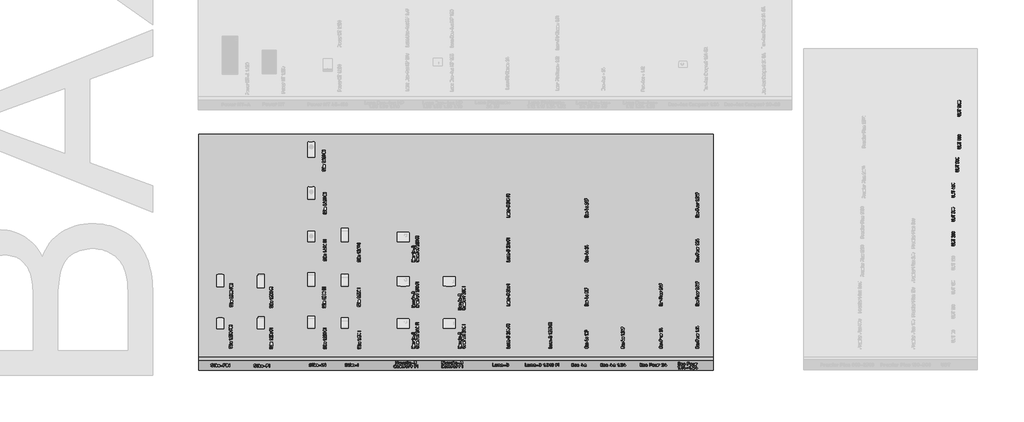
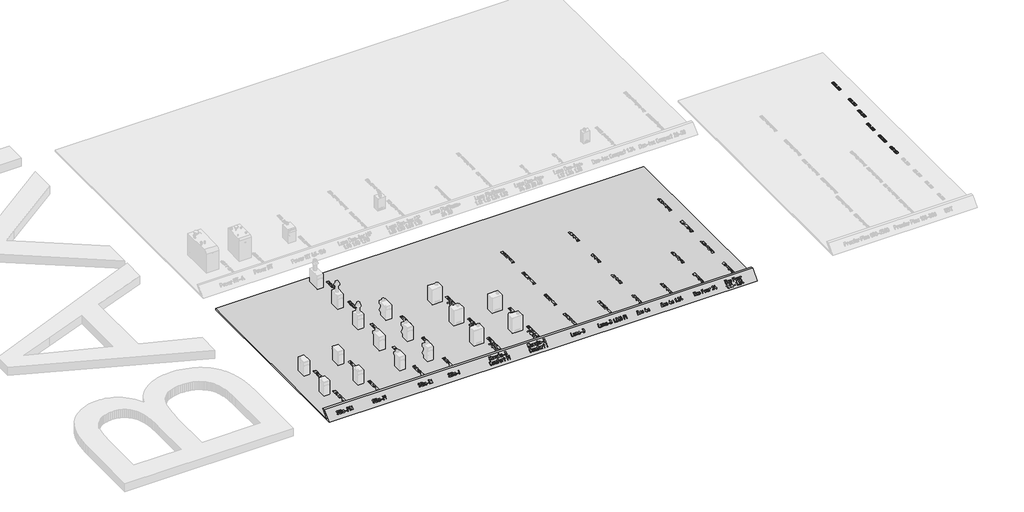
# One storey, part 31 of 37: 7 proxies.
"""IFC4 building model written with IfcOpenShell, lengths in millimetres."""

from ifc_helpers import new_model, si_unit, frame, origin, place, context, project, spatial, polyline, outline, extrude, transform, mapped, element, save
from components import generic_models_f48c6229

model = new_model("IFC4")

# Units and contexts
model_context = context("Model", 3, world=origin())
ifc_project = project(units=[si_unit("LENGTHUNIT", "METRE", prefix="MILLI")], contexts=[model_context])

# Site, building, storey
site = spatial("IfcSite", under=ifc_project)
building = spatial("IfcBuilding", under=site)
storey = spatial("IfcBuildingStorey", under=building, Name="01_Стартовый вид_Площадка", Elevation=0.0)

# Proxies
placement = place(None, origin())
element("IfcBuildingElementProxy", 1, Name="150 мм", ObjectType="150 мм", at=placement, inside=storey, context=model_context, shape_type="SweptSolid", body=[
    extrude(outline(polyline([(35202.1598658, -11955.5522205), (35300.2010973, -11955.5522205), (35317.5700563, -11958.8282519), (35332.2023305, -11968.656346), (35342.1502794, -11983.118826), (35345.4662624, -12000.2980149), (35342.1502794, -12017.4772038), (35332.2023305, -12031.9396837), (35317.5700563, -12041.7677778), (35300.2010973, -12045.0438092), (35202.1598658, -12045.0438092), (35196.4967262, -12043.1261323), (35194.609013, -12037.3731016), (35196.4867383, -12031.6200709), (35202.1199142, -12029.702394), (35300.0013393, -12029.702394), (35311.6821889, -12027.5699772), (35321.3954222, -12021.172727), (35327.942491, -12011.6892154), (35330.1248472, -12000.2980149), (35327.942491, -11988.9068143), (35321.3954222, -11979.4233028), (35311.6821889, -11973.0260525), (35300.0013393, -11970.8936357), (35202.1199142, -11970.8936357), (35196.4867383, -11968.9759588), (35194.609013, -11963.2229281), (35196.4967262, -11957.4698974), (35202.1598658, -11955.5522205)])), frame((0.0, 0.0, 11.1696829), z_axis=(0.0, 0.0, 1.0), x_axis=(1.0, 0.0, 0.0)), (0.0, 0.0, 1.0), 10.0),
    extrude(outline(polyline([(35262.8463493, -11857.2313278), (35278.6571958, -11840.8411831), (35300.8403229, -11835.3778015), (35317.9545904, -11838.6538329), (35332.3821127, -11848.481927), (35342.195225, -11862.9444069), (35345.4662624, -11880.1235958), (35345.4662624, -11917.3984406), (35343.5785492, -11923.0016527), (35337.9154096, -11924.8693901), (35202.1598658, -11924.8693901), (35196.4967262, -11923.0116406), (35194.609013, -11917.4383922), (35194.609013, -11880.2434506), (35197.3856493, -11865.8059404), (35205.7155584, -11853.8154659), (35218.0805792, -11845.7402483), (35232.962551, -11843.0485091), (35249.622369, -11846.5942138), (35262.8463493, -11857.2313278)]), holes=[polyline([(35271.316089, -11909.5279749), (35330.1248472, -11909.5279749), (35330.1248472, -11880.1235958), (35327.9924305, -11868.7323953), (35321.5951802, -11859.2488837), (35312.1116686, -11852.8516335), (35300.7204681, -11850.7192167), (35289.3292675, -11852.8516335), (35279.845756, -11859.2488837), (35273.4485057, -11868.7323953), (35271.316089, -11880.1235958), (35271.316089, -11909.5279749)]), polyline([(35209.9504282, -11909.5279749), (35255.9746738, -11909.5279749), (35255.9746738, -11880.3233538), (35254.2917125, -11871.8885718), (35249.2428288, -11864.8021564), (35241.8068369, -11859.9929823), (35232.962551, -11858.3899243), (35224.1182651, -11859.9929823), (35216.6822731, -11864.8021564), (35211.6333894, -11871.8885718), (35209.9504282, -11880.3233538), (35209.9504282, -11909.5279749)])]), frame((0.0, 0.0, 11.1696829), z_axis=(0.0, 0.0, 1.0), x_axis=(1.0, 0.0, 0.0)), (0.0, 0.0, 1.0), 10.0),
    extrude(outline(polyline([(35202.2797206, -11806.41289), (35196.5266899, -11804.5351647), (35194.609013, -11798.9019888), (35194.609013, -11723.5532673), (35196.5266899, -11717.9500551), (35202.2797206, -11716.0823177), (35208.0327513, -11717.9500551), (35209.9504282, -11723.5532673), (35209.9504282, -11753.5569204), (35337.9553612, -11753.5569204), (35343.5885371, -11755.4745973), (35345.4662624, -11761.227628), (35343.5885371, -11766.9806587), (35337.9553612, -11768.8983356), (35209.9504282, -11768.8983356), (35209.9504282, -11798.9019888), (35208.0327513, -11804.5351647), (35202.2797206, -11806.41289)])), frame((0.0, 0.0, 11.1696829), z_axis=(0.0, 0.0, 1.0), x_axis=(1.0, 0.0, 0.0)), (0.0, 0.0, 1.0), 10.0),
    extrude(outline(polyline([(35194.609013, -11596.2275115), (35197.3606796, -11581.7999892), (35205.6156793, -11569.6796719), (35217.7759482, -11561.4546358), (35232.2434221, -11558.7129571), (35243.0403426, -11560.4208881), (35253.9371421, -11565.5446811), (35330.1248472, -11612.8074263), (35330.1248472, -11566.2238583), (35332.0425241, -11560.5906824), (35337.7955548, -11558.7129571), (35343.5485855, -11560.5906824), (35345.4662624, -11566.2238583), (35345.4662624, -11626.2311646), (35343.5885371, -11631.8643405), (35337.9553612, -11633.7420658), (35333.6006366, -11632.4636145), (35244.9879832, -11577.4902101), (35232.5230833, -11573.7347595), (35223.8585796, -11575.3827631), (35216.5624183, -11580.3267738), (35211.6034257, -11587.5979654), (35209.9504282, -11596.2275115), (35214.6647172, -11608.4626896), (35228.8075844, -11619.7590051), (35232.4431801, -11626.2311646), (35230.5654548, -11631.8643405), (35224.932279, -11633.7420658), (35221.8560056, -11633.022937), (35201.4207611, -11616.852526), (35196.31195, -11607.0968442), (35194.609013, -11596.2275115)])), frame((0.0, 0.0, 11.1696829), z_axis=(0.0, 0.0, 1.0), x_axis=(1.0, 0.0, 0.0)), (0.0, 0.0, 1.0), 10.0),
    extrude(outline(polyline([(35270.0376377, -11454.3993241), (35295.1771833, -11456.0273519), (35316.6611573, -11460.9114352), (35338.2649861, -11473.3263956), (35343.6659433, -11481.6837713), (35345.4662624, -11491.4744108), (35343.6734343, -11501.2650503), (35338.2949498, -11509.6224261), (35316.7810121, -11522.0373864), (35295.2670744, -11526.9214698), (35270.0376377, -11528.5494975), (35244.808201, -11526.9214698), (35223.2942633, -11522.0373864), (35201.7803255, -11509.6224261), (35196.4018411, -11501.2650503), (35194.609013, -11491.4744108), (35196.409332, -11481.6837713), (35201.8102892, -11473.3263956), (35223.4141181, -11460.9114352), (35244.8980921, -11456.0273519), (35270.0376377, -11454.3993241)]), holes=[polyline([(35270.0376377, -11469.7407393), (35234.8802279, -11473.5760931), (35216.1828781, -11480.9671395), (35209.9504282, -11491.4744108), (35216.2128418, -11501.8917911), (35235.0000827, -11509.2528737), (35270.0376377, -11513.2080823), (35305.1950475, -11509.3727285), (35323.8923973, -11501.9816822), (35330.1248472, -11491.4744108), (35323.8923973, -11480.9671395), (35305.1950475, -11473.5760931), (35270.0376377, -11469.7407393)])]), frame((0.0, 0.0, 11.1696829), z_axis=(0.0, 0.0, 1.0), x_axis=(1.0, 0.0, 0.0)), (0.0, 0.0, 1.0), 10.0),
    extrude(outline(polyline([(35270.0376377, -11349.5663202), (35295.1771833, -11351.194348), (35316.6611573, -11356.0784314), (35338.2649861, -11368.4933917), (35343.6659433, -11376.8507675), (35345.4662624, -11386.641407), (35343.6734343, -11396.4320464), (35338.2949498, -11404.7894222), (35316.7810121, -11417.2043826), (35295.2670744, -11422.0884659), (35270.0376377, -11423.7164937), (35244.808201, -11422.0884659), (35223.2942633, -11417.2043826), (35201.7803255, -11404.7894222), (35196.4018411, -11396.4320464), (35194.609013, -11386.641407), (35196.409332, -11376.8507675), (35201.8102892, -11368.4933917), (35223.4141181, -11356.0784314), (35244.8980921, -11351.194348), (35270.0376377, -11349.5663202)]), holes=[polyline([(35270.0376377, -11364.9077354), (35234.8802279, -11368.7430892), (35216.1828781, -11376.1341356), (35209.9504282, -11386.641407), (35216.2128418, -11397.0587872), (35235.0000827, -11404.4198699), (35270.0376377, -11408.3750785), (35305.1950475, -11404.5397247), (35323.8923973, -11397.1486783), (35330.1248472, -11386.641407), (35323.8923973, -11376.1341356), (35305.1950475, -11368.7430892), (35270.0376377, -11364.9077354)])]), frame((0.0, 0.0, 11.1696829), z_axis=(0.0, 0.0, 1.0), x_axis=(1.0, 0.0, 0.0)), (0.0, 0.0, 1.0), 10.0),
])
element("IfcBuildingElementProxy", 2, Name="150 мм", ObjectType="150 мм", at=placement, inside=storey, context=model_context, shape_type="SweptSolid", body=[
    extrude(outline(polyline([(35202.1598658, -10755.5522205), (35300.2010973, -10755.5522205), (35317.5700563, -10758.8282519), (35332.2023305, -10768.656346), (35342.1502794, -10783.118826), (35345.4662624, -10800.2980149), (35342.1502794, -10817.4772038), (35332.2023305, -10831.9396837), (35317.5700563, -10841.7677778), (35300.2010973, -10845.0438092), (35202.1598658, -10845.0438092), (35196.4967262, -10843.1261323), (35194.609013, -10837.3731016), (35196.4867383, -10831.6200709), (35202.1199142, -10829.702394), (35300.0013393, -10829.702394), (35311.6821889, -10827.5699772), (35321.3954222, -10821.172727), (35327.942491, -10811.6892154), (35330.1248472, -10800.2980149), (35327.942491, -10788.9068143), (35321.3954222, -10779.4233028), (35311.6821889, -10773.0260525), (35300.0013393, -10770.8936357), (35202.1199142, -10770.8936357), (35196.4867383, -10768.9759588), (35194.609013, -10763.2229281), (35196.4967262, -10757.4698974), (35202.1598658, -10755.5522205)])), frame((0.0, 0.0, 11.1696829), z_axis=(0.0, 0.0, 1.0), x_axis=(1.0, 0.0, 0.0)), (0.0, 0.0, 1.0), 10.0),
    extrude(outline(polyline([(35262.8463493, -10657.2313278), (35278.6571958, -10640.8411831), (35300.8403229, -10635.3778015), (35317.9545904, -10638.6538329), (35332.3821127, -10648.481927), (35342.195225, -10662.9444069), (35345.4662624, -10680.1235958), (35345.4662624, -10717.3984406), (35343.5785492, -10723.0016527), (35337.9154096, -10724.8693901), (35202.1598658, -10724.8693901), (35196.4967262, -10723.0116406), (35194.609013, -10717.4383922), (35194.609013, -10680.2434506), (35197.3856493, -10665.8059404), (35205.7155584, -10653.8154659), (35218.0805792, -10645.7402483), (35232.962551, -10643.0485091), (35249.622369, -10646.5942138), (35262.8463493, -10657.2313278)]), holes=[polyline([(35271.316089, -10709.5279749), (35330.1248472, -10709.5279749), (35330.1248472, -10680.1235958), (35327.9924305, -10668.7323953), (35321.5951802, -10659.2488837), (35312.1116686, -10652.8516335), (35300.7204681, -10650.7192167), (35289.3292675, -10652.8516335), (35279.845756, -10659.2488837), (35273.4485057, -10668.7323953), (35271.316089, -10680.1235958), (35271.316089, -10709.5279749)]), polyline([(35209.9504282, -10709.5279749), (35255.9746738, -10709.5279749), (35255.9746738, -10680.3233538), (35254.2917125, -10671.8885718), (35249.2428288, -10664.8021564), (35241.8068369, -10659.9929823), (35232.962551, -10658.3899243), (35224.1182651, -10659.9929823), (35216.6822731, -10664.8021564), (35211.6333894, -10671.8885718), (35209.9504282, -10680.3233538), (35209.9504282, -10709.5279749)])]), frame((0.0, 0.0, 11.1696829), z_axis=(0.0, 0.0, 1.0), x_axis=(1.0, 0.0, 0.0)), (0.0, 0.0, 1.0), 10.0),
    extrude(outline(polyline([(35202.2797206, -10606.41289), (35196.5266899, -10604.5351647), (35194.609013, -10598.9019888), (35194.609013, -10523.5532673), (35196.5266899, -10517.9500551), (35202.2797206, -10516.0823177), (35208.0327513, -10517.9500551), (35209.9504282, -10523.5532673), (35209.9504282, -10553.5569204), (35337.9553612, -10553.5569204), (35343.5885371, -10555.4745973), (35345.4662624, -10561.227628), (35343.5885371, -10566.9806587), (35337.9553612, -10568.8983356), (35209.9504282, -10568.8983356), (35209.9504282, -10598.9019888), (35208.0327513, -10604.5351647), (35202.2797206, -10606.41289)])), frame((0.0, 0.0, 11.1696829), z_axis=(0.0, 0.0, 1.0), x_axis=(1.0, 0.0, 0.0)), (0.0, 0.0, 1.0), 10.0),
    extrude(outline(polyline([(35271.316089, -10397.0664951), (35271.316089, -10412.0483459), (35269.3984121, -10417.6815218), (35263.6453814, -10419.5592471), (35257.8923507, -10417.6815218), (35255.9746738, -10412.0483459), (35255.9746738, -10397.0664951), (35254.3017004, -10388.3620398), (35249.2827804, -10381.1058301), (35241.8567764, -10376.2067649), (35232.962551, -10374.5737431), (35224.1182651, -10376.2217467), (35216.6822731, -10381.1657575), (35211.6333894, -10388.4369491), (35209.9504282, -10397.0664951), (35209.9504282, -10427.0701483), (35208.0327513, -10432.7033242), (35202.2797206, -10434.5810495), (35196.5266899, -10432.7033242), (35194.609013, -10427.0701483), (35194.609013, -10397.0664951), (35197.4256009, -10382.5990212), (35205.8753648, -10370.3588491), (35218.2803372, -10362.0139582), (35232.962551, -10359.2323279), (35250.1617157, -10362.9877785), (35263.6453814, -10374.2541303), (35276.7195431, -10362.9877785), (35293.4093249, -10359.2323279), (35308.2713209, -10359.2323279), (35322.5839823, -10362.0289401), (35334.5994267, -10370.4187765), (35342.7495535, -10382.6739305), (35345.4662624, -10397.0664951), (35345.4662624, -10427.0701483), (35343.5485855, -10432.7033242), (35337.7955548, -10434.5810495), (35332.0425241, -10432.7033242), (35330.1248472, -10427.0701483), (35330.1248472, -10397.0664951), (35328.5217892, -10388.3620398), (35323.7126151, -10381.1058301), (35316.596236, -10376.2067649), (35308.0715629, -10374.5737431), (35293.3693733, -10374.5737431), (35284.8946397, -10376.2217467), (35277.7682727, -10381.1657575), (35272.9291349, -10388.4369491), (35271.316089, -10397.0664951)])), frame((0.0, 0.0, 11.1696829), z_axis=(0.0, 0.0, 1.0), x_axis=(1.0, 0.0, 0.0)), (0.0, 0.0, 1.0), 10.0),
    extrude(outline(polyline([(35270.0376377, -10254.3993241), (35295.1771833, -10256.0273519), (35316.6611573, -10260.9114352), (35338.2649861, -10273.3263956), (35343.6659433, -10281.6837713), (35345.4662624, -10291.4744108), (35343.6734343, -10301.2650503), (35338.2949498, -10309.6224261), (35316.7810121, -10322.0373864), (35295.2670744, -10326.9214698), (35270.0376377, -10328.5494975), (35244.808201, -10326.9214698), (35223.2942633, -10322.0373864), (35201.7803255, -10309.6224261), (35196.4018411, -10301.2650503), (35194.609013, -10291.4744108), (35196.409332, -10281.6837713), (35201.8102892, -10273.3263956), (35223.4141181, -10260.9114352), (35244.8980921, -10256.0273519), (35270.0376377, -10254.3993241)]), holes=[polyline([(35270.0376377, -10269.7407393), (35234.8802279, -10273.5760931), (35216.1828781, -10280.9671395), (35209.9504282, -10291.4744108), (35216.2128418, -10301.8917911), (35235.0000827, -10309.2528737), (35270.0376377, -10313.2080823), (35305.1950475, -10309.3727285), (35323.8923973, -10301.9816822), (35330.1248472, -10291.4744108), (35323.8923973, -10280.9671395), (35305.1950475, -10273.5760931), (35270.0376377, -10269.7407393)])]), frame((0.0, 0.0, 11.1696829), z_axis=(0.0, 0.0, 1.0), x_axis=(1.0, 0.0, 0.0)), (0.0, 0.0, 1.0), 10.0),
    extrude(outline(polyline([(35270.0376377, -10149.5663202), (35295.1771833, -10151.194348), (35316.6611573, -10156.0784314), (35338.2649861, -10168.4933917), (35343.6659433, -10176.8507675), (35345.4662624, -10186.641407), (35343.6734343, -10196.4320464), (35338.2949498, -10204.7894222), (35316.7810121, -10217.2043826), (35295.2670744, -10222.0884659), (35270.0376377, -10223.7164937), (35244.808201, -10222.0884659), (35223.2942633, -10217.2043826), (35201.7803255, -10204.7894222), (35196.4018411, -10196.4320464), (35194.609013, -10186.641407), (35196.409332, -10176.8507675), (35201.8102892, -10168.4933917), (35223.4141181, -10156.0784314), (35244.8980921, -10151.194348), (35270.0376377, -10149.5663202)]), holes=[polyline([(35270.0376377, -10164.9077354), (35234.8802279, -10168.7430892), (35216.1828781, -10176.1341356), (35209.9504282, -10186.641407), (35216.2128418, -10197.0587872), (35235.0000827, -10204.4198699), (35270.0376377, -10208.3750785), (35305.1950475, -10204.5397247), (35323.8923973, -10197.1486783), (35330.1248472, -10186.641407), (35323.8923973, -10176.1341356), (35305.1950475, -10168.7430892), (35270.0376377, -10164.9077354)])]), frame((0.0, 0.0, 11.1696829), z_axis=(0.0, 0.0, 1.0), x_axis=(1.0, 0.0, 0.0)), (0.0, 0.0, 1.0), 10.0),
])
element("IfcBuildingElementProxy", 3, Name="150 мм", ObjectType="150 мм", at=placement, inside=storey, context=model_context, shape_type="SweptSolid", body=[
    extrude(outline(polyline([(35202.1598658, -9555.5522205), (35300.2010973, -9555.5522205), (35317.5700563, -9558.8282519), (35332.2023305, -9568.656346), (35342.1502794, -9583.118826), (35345.4662624, -9600.2980149), (35342.1502794, -9617.4772038), (35332.2023305, -9631.9396837), (35317.5700563, -9641.7677778), (35300.2010973, -9645.0438092), (35202.1598658, -9645.0438092), (35196.4967262, -9643.1261323), (35194.609013, -9637.3731016), (35196.4867383, -9631.6200709), (35202.1199142, -9629.702394), (35300.0013393, -9629.702394), (35311.6821889, -9627.5699772), (35321.3954222, -9621.172727), (35327.942491, -9611.6892154), (35330.1248472, -9600.2980149), (35327.942491, -9588.9068143), (35321.3954222, -9579.4233028), (35311.6821889, -9573.0260525), (35300.0013393, -9570.8936357), (35202.1199142, -9570.8936357), (35196.4867383, -9568.9759588), (35194.609013, -9563.2229281), (35196.4967262, -9557.4698974), (35202.1598658, -9555.5522205)])), frame((0.0, 0.0, 11.1696829), z_axis=(0.0, 0.0, 1.0), x_axis=(1.0, 0.0, 0.0)), (0.0, 0.0, 1.0), 10.0),
    extrude(outline(polyline([(35262.8463493, -9457.2313278), (35278.6571958, -9440.8411831), (35300.8403229, -9435.3778015), (35317.9545904, -9438.6538329), (35332.3821127, -9448.481927), (35342.195225, -9462.9444069), (35345.4662624, -9480.1235958), (35345.4662624, -9517.3984406), (35343.5785492, -9523.0016527), (35337.9154096, -9524.8693901), (35202.1598658, -9524.8693901), (35196.4967262, -9523.0116406), (35194.609013, -9517.4383922), (35194.609013, -9480.2434506), (35197.3856493, -9465.8059404), (35205.7155584, -9453.8154659), (35218.0805792, -9445.7402483), (35232.962551, -9443.0485091), (35249.622369, -9446.5942138), (35262.8463493, -9457.2313278)]), holes=[polyline([(35271.316089, -9509.5279749), (35330.1248472, -9509.5279749), (35330.1248472, -9480.1235958), (35327.9924305, -9468.7323953), (35321.5951802, -9459.2488837), (35312.1116686, -9452.8516335), (35300.7204681, -9450.7192167), (35289.3292675, -9452.8516335), (35279.845756, -9459.2488837), (35273.4485057, -9468.7323953), (35271.316089, -9480.1235958), (35271.316089, -9509.5279749)]), polyline([(35209.9504282, -9509.5279749), (35255.9746738, -9509.5279749), (35255.9746738, -9480.3233538), (35254.2917125, -9471.8885718), (35249.2428288, -9464.8021564), (35241.8068369, -9459.9929823), (35232.962551, -9458.3899243), (35224.1182651, -9459.9929823), (35216.6822731, -9464.8021564), (35211.6333894, -9471.8885718), (35209.9504282, -9480.3233538), (35209.9504282, -9509.5279749)])]), frame((0.0, 0.0, 11.1696829), z_axis=(0.0, 0.0, 1.0), x_axis=(1.0, 0.0, 0.0)), (0.0, 0.0, 1.0), 10.0),
    extrude(outline(polyline([(35202.2797206, -9406.41289), (35196.5266899, -9404.5351647), (35194.609013, -9398.9019888), (35194.609013, -9323.5532673), (35196.5266899, -9317.9500551), (35202.2797206, -9316.0823177), (35208.0327513, -9317.9500551), (35209.9504282, -9323.5532673), (35209.9504282, -9353.5569204), (35337.9553612, -9353.5569204), (35343.5885371, -9355.4745973), (35345.4662624, -9361.227628), (35343.5885371, -9366.9806587), (35337.9553612, -9368.8983356), (35209.9504282, -9368.8983356), (35209.9504282, -9398.9019888), (35208.0327513, -9404.5351647), (35202.2797206, -9406.41289)])), frame((0.0, 0.0, 11.1696829), z_axis=(0.0, 0.0, 1.0), x_axis=(1.0, 0.0, 0.0)), (0.0, 0.0, 1.0), 10.0),
    extrude(outline(polyline([(35307.2725308, -9234.7808075), (35305.2349991, -9234.5410979), (35200.0823825, -9204.5374447), (35195.9773553, -9201.9206148), (35194.609013, -9197.2662531), (35196.4767504, -9191.6330772), (35202.0799626, -9189.7553519), (35204.2373491, -9190.1149163), (35299.4420168, -9217.361909), (35299.4420168, -9182.2444507), (35276.9093133, -9182.2444507), (35271.3061011, -9180.3267738), (35269.4383637, -9174.5737431), (35271.3061011, -9168.8207124), (35276.9093133, -9166.9030355), (35299.4420168, -9166.9030355), (35299.4420168, -9151.8812332), (35301.3596937, -9146.278021), (35307.1127244, -9144.4102836), (35312.8657551, -9146.278021), (35314.783432, -9151.8812332), (35314.783432, -9166.9030355), (35337.7955548, -9166.9030355), (35343.5485855, -9168.8207124), (35345.4662624, -9174.5737431), (35343.5485855, -9180.3267738), (35337.7955548, -9182.2444507), (35314.783432, -9182.2444507), (35314.783432, -9227.2699063), (35312.9057067, -9232.9030822), (35307.2725308, -9234.7808075)])), frame((0.0, 0.0, 11.1696829), z_axis=(0.0, 0.0, 1.0), x_axis=(1.0, 0.0, 0.0)), (0.0, 0.0, 1.0), 10.0),
    extrude(outline(polyline([(35270.0376377, -9039.0579089), (35295.1771833, -9040.6859367), (35316.6611573, -9045.57002), (35338.2649861, -9057.9849804), (35343.6659433, -9066.3423561), (35345.4662624, -9076.1329956), (35343.6734343, -9085.9236351), (35338.2949498, -9094.2810109), (35316.7810121, -9106.6959712), (35295.2670744, -9111.5800546), (35270.0376377, -9113.2080823), (35244.808201, -9111.5800546), (35223.2942633, -9106.6959712), (35201.7803255, -9094.2810109), (35196.4018411, -9085.9236351), (35194.609013, -9076.1329956), (35196.409332, -9066.3423561), (35201.8102892, -9057.9849804), (35223.4141181, -9045.57002), (35244.8980921, -9040.6859367), (35270.0376377, -9039.0579089)]), holes=[polyline([(35270.0376377, -9054.3993241), (35234.8802279, -9058.2346779), (35216.1828781, -9065.6257243), (35209.9504282, -9076.1329956), (35216.2128418, -9086.5503759), (35235.0000827, -9093.9114585), (35270.0376377, -9097.8666671), (35305.1950475, -9094.0313133), (35323.8923973, -9086.640267), (35330.1248472, -9076.1329956), (35323.8923973, -9065.6257243), (35305.1950475, -9058.2346779), (35270.0376377, -9054.3993241)])]), frame((0.0, 0.0, 11.1696829), z_axis=(0.0, 0.0, 1.0), x_axis=(1.0, 0.0, 0.0)), (0.0, 0.0, 1.0), 10.0),
    extrude(outline(polyline([(35270.0376377, -8934.224905), (35295.1771833, -8935.8529328), (35316.6611573, -8940.7370162), (35338.2649861, -8953.1519765), (35343.6659433, -8961.5093523), (35345.4662624, -8971.2999918), (35343.6734343, -8981.0906313), (35338.2949498, -8989.448007), (35316.7810121, -9001.8629674), (35295.2670744, -9006.7470507), (35270.0376377, -9008.3750785), (35244.808201, -9006.7470507), (35223.2942633, -9001.8629674), (35201.7803255, -8989.448007), (35196.4018411, -8981.0906313), (35194.609013, -8971.2999918), (35196.409332, -8961.5093523), (35201.8102892, -8953.1519765), (35223.4141181, -8940.7370162), (35244.8980921, -8935.8529328), (35270.0376377, -8934.224905)]), holes=[polyline([(35270.0376377, -8949.5663202), (35234.8802279, -8953.401674), (35216.1828781, -8960.7927204), (35209.9504282, -8971.2999918), (35216.2128418, -8981.717372), (35235.0000827, -8989.0784547), (35270.0376377, -8993.0336633), (35305.1950475, -8989.1983095), (35323.8923973, -8981.8072631), (35330.1248472, -8971.2999918), (35323.8923973, -8960.7927204), (35305.1950475, -8953.401674), (35270.0376377, -8949.5663202)])]), frame((0.0, 0.0, 11.1696829), z_axis=(0.0, 0.0, 1.0), x_axis=(1.0, 0.0, 0.0)), (0.0, 0.0, 1.0), 10.0),
])
element("IfcBuildingElementProxy", 4, Name="150 мм", ObjectType="150 мм", at=placement, inside=storey, context=model_context, shape_type="SweptSolid", body=[
    extrude(outline(polyline([(35402.1598658, -8275.5522205), (35500.2010973, -8275.5522205), (35517.5700563, -8278.8282519), (35532.2023305, -8288.656346), (35542.1502794, -8303.118826), (35545.4662624, -8320.2980149), (35542.1502794, -8337.4772038), (35532.2023305, -8351.9396837), (35517.5700563, -8361.7677778), (35500.2010973, -8365.0438092), (35402.1598658, -8365.0438092), (35396.4967262, -8363.1261323), (35394.609013, -8357.3731016), (35396.4867383, -8351.6200709), (35402.1199142, -8349.702394), (35500.0013393, -8349.702394), (35511.6821889, -8347.5699772), (35521.3954222, -8341.172727), (35527.942491, -8331.6892154), (35530.1248472, -8320.2980149), (35527.942491, -8308.9068143), (35521.3954222, -8299.4233028), (35511.6821889, -8293.0260525), (35500.0013393, -8290.8936357), (35402.1199142, -8290.8936357), (35396.4867383, -8288.9759588), (35394.609013, -8283.2229281), (35396.4967262, -8277.4698974), (35402.1598658, -8275.5522205)])), frame((0.0, 0.0, 11.1696829), z_axis=(0.0, 0.0, 1.0), x_axis=(1.0, 0.0, 0.0)), (0.0, 0.0, 1.0), 10.0),
    extrude(outline(polyline([(35462.8463493, -8177.2313278), (35478.6571958, -8160.8411831), (35500.8403229, -8155.3778015), (35517.9545904, -8158.6538329), (35532.3821127, -8168.481927), (35542.195225, -8182.9444069), (35545.4662624, -8200.1235958), (35545.4662624, -8237.3984406), (35543.5785492, -8243.0016527), (35537.9154096, -8244.8693901), (35402.1598658, -8244.8693901), (35396.4967262, -8243.0116406), (35394.609013, -8237.4383922), (35394.609013, -8200.2434506), (35397.3856493, -8185.8059404), (35405.7155584, -8173.8154659), (35418.0805792, -8165.7402483), (35432.962551, -8163.0485091), (35449.622369, -8166.5942138), (35462.8463493, -8177.2313278)]), holes=[polyline([(35471.316089, -8229.5279749), (35530.1248472, -8229.5279749), (35530.1248472, -8200.1235958), (35527.9924305, -8188.7323953), (35521.5951802, -8179.2488837), (35512.1116686, -8172.8516335), (35500.7204681, -8170.7192167), (35489.3292675, -8172.8516335), (35479.845756, -8179.2488837), (35473.4485057, -8188.7323953), (35471.316089, -8200.1235958), (35471.316089, -8229.5279749)]), polyline([(35409.9504282, -8229.5279749), (35455.9746738, -8229.5279749), (35455.9746738, -8200.3233538), (35454.2917125, -8191.8885718), (35449.2428288, -8184.8021564), (35441.8068369, -8179.9929823), (35432.962551, -8178.3899243), (35424.1182651, -8179.9929823), (35416.6822731, -8184.8021564), (35411.6333894, -8191.8885718), (35409.9504282, -8200.3233538), (35409.9504282, -8229.5279749)])]), frame((0.0, 0.0, 11.1696829), z_axis=(0.0, 0.0, 1.0), x_axis=(1.0, 0.0, 0.0)), (0.0, 0.0, 1.0), 10.0),
    extrude(outline(polyline([(35402.2797206, -8126.41289), (35396.5266899, -8124.5351647), (35394.609013, -8118.9019888), (35394.609013, -8043.5532673), (35396.5266899, -8037.9500551), (35402.2797206, -8036.0823177), (35408.0327513, -8037.9500551), (35409.9504282, -8043.5532673), (35409.9504282, -8073.5569204), (35537.9553612, -8073.5569204), (35543.5885371, -8075.4745973), (35545.4662624, -8081.227628), (35543.5885371, -8086.9806587), (35537.9553612, -8088.8983356), (35409.9504282, -8088.8983356), (35409.9504282, -8118.9019888), (35408.0327513, -8124.5351647), (35402.2797206, -8126.41289)])), frame((0.0, 0.0, 11.1696829), z_axis=(0.0, 0.0, 1.0), x_axis=(1.0, 0.0, 0.0)), (0.0, 0.0, 1.0), 10.0),
    extrude(outline(polyline([(35463.6453814, -7953.3825014), (35402.2797206, -7953.3825014), (35396.5266899, -7951.5447277), (35394.609013, -7946.0314066), (35394.609013, -7894.5737431), (35396.5266899, -7888.9405672), (35402.2797206, -7887.0628419), (35408.0327513, -7888.9405672), (35409.9504282, -7894.5737431), (35409.9504282, -7938.0410862), (35455.9746738, -7938.0410862), (35455.9746738, -7915.9878018), (35458.7163525, -7901.8549226), (35466.9413885, -7889.9793089), (35479.0017784, -7881.9190732), (35493.2495185, -7879.2323279), (35508.1914177, -7879.2323279), (35522.514067, -7881.9590248), (35534.5594751, -7890.1391153), (35542.7395656, -7902.1345838), (35545.4662624, -7916.3074147), (35545.4662624, -7945.9515034), (35543.5485855, -7951.5247519), (35537.7955548, -7953.3825014), (35532.0425241, -7951.5447277), (35530.1248472, -7946.0314066), (35530.1248472, -7916.6270275), (35528.5217892, -7908.1023544), (35523.7126151, -7900.9859753), (35516.596236, -7896.1768012), (35508.0715629, -7894.5737431), (35493.3693733, -7894.5737431), (35484.8946397, -7896.1867891), (35477.7682727, -7901.0259269), (35472.9291349, -7908.1522939), (35471.316089, -7916.6270275), (35471.316089, -7946.0314066), (35469.3984121, -7951.5447277), (35463.6453814, -7953.3825014)])), frame((0.0, 0.0, 11.1696829), z_axis=(0.0, 0.0, 1.0), x_axis=(1.0, 0.0, 0.0)), (0.0, 0.0, 1.0), 10.0),
    extrude(outline(polyline([(35470.0376377, -7774.3993241), (35495.1771833, -7776.0273519), (35516.6611573, -7780.9114352), (35538.2649861, -7793.3263956), (35543.6659433, -7801.6837713), (35545.4662624, -7811.4744108), (35543.6734343, -7821.2650503), (35538.2949498, -7829.6224261), (35516.7810121, -7842.0373864), (35495.2670744, -7846.9214698), (35470.0376377, -7848.5494975), (35444.808201, -7846.9214698), (35423.2942633, -7842.0373864), (35401.7803255, -7829.6224261), (35396.4018411, -7821.2650503), (35394.609013, -7811.4744108), (35396.409332, -7801.6837713), (35401.8102892, -7793.3263956), (35423.4141181, -7780.9114352), (35444.8980921, -7776.0273519), (35470.0376377, -7774.3993241)]), holes=[polyline([(35470.0376377, -7789.7407393), (35434.8802279, -7793.5760931), (35416.1828781, -7800.9671395), (35409.9504282, -7811.4744108), (35416.2128418, -7821.8917911), (35435.0000827, -7829.2528737), (35470.0376377, -7833.2080823), (35505.1950475, -7829.3727285), (35523.8923973, -7821.9816822), (35530.1248472, -7811.4744108), (35523.8923973, -7800.9671395), (35505.1950475, -7793.5760931), (35470.0376377, -7789.7407393)])]), frame((0.0, 0.0, 11.1696829), z_axis=(0.0, 0.0, 1.0), x_axis=(1.0, 0.0, 0.0)), (0.0, 0.0, 1.0), 10.0),
    extrude(outline(polyline([(35470.0376377, -7669.5663202), (35495.1771833, -7671.194348), (35516.6611573, -7676.0784314), (35538.2649861, -7688.4933917), (35543.6659433, -7696.8507675), (35545.4662624, -7706.641407), (35543.6734343, -7716.4320464), (35538.2949498, -7724.7894222), (35516.7810121, -7737.2043826), (35495.2670744, -7742.0884659), (35470.0376377, -7743.7164937), (35444.808201, -7742.0884659), (35423.2942633, -7737.2043826), (35401.7803255, -7724.7894222), (35396.4018411, -7716.4320464), (35394.609013, -7706.641407), (35396.409332, -7696.8507675), (35401.8102892, -7688.4933917), (35423.4141181, -7676.0784314), (35444.8980921, -7671.194348), (35470.0376377, -7669.5663202)]), holes=[polyline([(35470.0376377, -7684.9077354), (35434.8802279, -7688.7430892), (35416.1828781, -7696.1341356), (35409.9504282, -7706.641407), (35416.2128418, -7717.0587872), (35435.0000827, -7724.4198699), (35470.0376377, -7728.3750785), (35505.1950475, -7724.5397247), (35523.8923973, -7717.1486783), (35530.1248472, -7706.641407), (35523.8923973, -7696.1341356), (35505.1950475, -7688.7430892), (35470.0376377, -7684.9077354)])]), frame((0.0, 0.0, 11.1696829), z_axis=(0.0, 0.0, 1.0), x_axis=(1.0, 0.0, 0.0)), (0.0, 0.0, 1.0), 10.0),
])
element("IfcBuildingElementProxy", 5, Name="150 мм", ObjectType="150 мм", at=placement, inside=storey, context=model_context, shape_type="SweptSolid", body=[
    extrude(outline(polyline([(35503.3861528, -7135.4704681), (35601.4273843, -7135.4704681), (35618.7963433, -7138.7464994), (35633.4286175, -7148.5745936), (35643.3765664, -7163.0370735), (35646.6925494, -7180.2162624), (35643.3765664, -7197.3954513), (35633.4286175, -7211.8579312), (35618.7963433, -7221.6860254), (35601.4273843, -7224.9620567), (35503.3861528, -7224.9620567), (35497.7230132, -7223.0443798), (35495.8353, -7217.2913491), (35497.7130253, -7211.5383184), (35503.3462012, -7209.6206415), (35601.2276263, -7209.6206415), (35612.9084759, -7207.4882248), (35622.6217092, -7201.0909745), (35629.168778, -7191.6074629), (35631.3511342, -7180.2162624), (35629.168778, -7168.8250619), (35622.6217092, -7159.3415503), (35612.9084759, -7152.9443), (35601.2276263, -7150.8118833), (35503.3462012, -7150.8118833), (35497.7130253, -7148.8942064), (35495.8353, -7143.1411757), (35497.7230132, -7137.388145), (35503.3861528, -7135.4704681)])), frame((0.0, 0.0, 11.1696829), z_axis=(0.0, 0.0, 1.0), x_axis=(1.0, 0.0, 0.0)), (0.0, 0.0, 1.0), 10.0),
    extrude(outline(polyline([(35564.0726363, -7037.1495754), (35579.8834828, -7020.7594306), (35602.0666099, -7015.296049), (35619.1808774, -7018.5720804), (35633.6083997, -7028.4001745), (35643.421512, -7042.8626545), (35646.6925494, -7060.0418434), (35646.6925494, -7097.3166881), (35644.8048362, -7102.9199003), (35639.1416966, -7104.7876377), (35503.3861528, -7104.7876377), (35497.7230132, -7102.9298882), (35495.8353, -7097.3566397), (35495.8353, -7060.1616982), (35498.6119363, -7045.724188), (35506.9418454, -7033.7337134), (35519.3068662, -7025.6584958), (35534.188838, -7022.9667566), (35550.848656, -7026.5124613), (35564.0726363, -7037.1495754)]), holes=[polyline([(35572.542376, -7089.4462225), (35631.3511342, -7089.4462225), (35631.3511342, -7060.0418434), (35629.2187175, -7048.6506428), (35622.8214672, -7039.1671313), (35613.3379556, -7032.769881), (35601.9467551, -7030.6374642), (35590.5555545, -7032.769881), (35581.072043, -7039.1671313), (35574.6747927, -7048.6506428), (35572.542376, -7060.0418434), (35572.542376, -7089.4462225)]), polyline([(35511.1767152, -7089.4462225), (35557.2009608, -7089.4462225), (35557.2009608, -7060.2416014), (35555.5179995, -7051.8068194), (35550.4691158, -7044.720404), (35543.0331239, -7039.9112299), (35534.188838, -7038.3081718), (35525.3445521, -7039.9112299), (35517.9085601, -7044.720404), (35512.8596764, -7051.8068194), (35511.1767152, -7060.2416014), (35511.1767152, -7089.4462225)])]), frame((0.0, 0.0, 11.1696829), z_axis=(0.0, 0.0, 1.0), x_axis=(1.0, 0.0, 0.0)), (0.0, 0.0, 1.0), 10.0),
    extrude(outline(polyline([(35503.5060076, -6986.3311375), (35497.7529769, -6984.4534122), (35495.8353, -6978.8202363), (35495.8353, -6903.4715148), (35497.7529769, -6897.8683026), (35503.5060076, -6896.0005652), (35509.2590383, -6897.8683026), (35511.1767152, -6903.4715148), (35511.1767152, -6933.475168), (35639.1816482, -6933.475168), (35644.8148241, -6935.3928449), (35646.6925494, -6941.1458756), (35644.8148241, -6946.8989063), (35639.1816482, -6948.8165832), (35511.1767152, -6948.8165832), (35511.1767152, -6978.8202363), (35509.2590383, -6984.4534122), (35503.5060076, -6986.3311375)])), frame((0.0, 0.0, 11.1696829), z_axis=(0.0, 0.0, 1.0), x_axis=(1.0, 0.0, 0.0)), (0.0, 0.0, 1.0), 10.0),
    extrude(outline(polyline([(35646.6925494, -6776.2256622), (35643.9358889, -6790.4734023), (35635.6659072, -6802.453889), (35623.4806686, -6810.5890339), (35608.9782371, -6813.3007489), (35593.8765315, -6813.3007489), (35576.9670159, -6809.4653951), (35563.7130719, -6797.9593337), (35550.4591279, -6809.4653951), (35533.5496123, -6813.3007489), (35519.0471808, -6810.5890339), (35506.8619421, -6802.453889), (35498.5919605, -6790.4734023), (35495.8353, -6776.2256622), (35498.5919605, -6761.9779221), (35506.8619421, -6749.9974354), (35519.0471808, -6741.8622905), (35533.5496123, -6739.1505755), (35550.4591279, -6742.9859293), (35563.7130719, -6754.4919907), (35572.8919525, -6746.2419848), (35583.9685342, -6741.707478), (35608.9782371, -6739.1505755), (35623.4806686, -6741.8622905), (35635.6659072, -6749.9974354), (35643.9358889, -6761.9779221), (35646.6925494, -6776.2256622)]), holes=[polyline([(35631.3511342, -6776.2256622), (35629.7131185, -6767.81585), (35624.7990715, -6760.8043438), (35617.5278799, -6756.0700789), (35608.8184306, -6754.4919907), (35593.8365799, -6754.4919907), (35585.2070338, -6756.0850608), (35577.9358422, -6760.8642712), (35572.9918315, -6767.8907592), (35571.3438279, -6776.2256622), (35572.9768496, -6784.6354744), (35577.8759148, -6791.6469806), (35585.1321246, -6796.3812454), (35593.8365799, -6797.9593337), (35608.8184306, -6797.9593337), (35617.5278799, -6796.3812454), (35624.7990715, -6791.6469806), (35629.7131185, -6784.6354744), (35631.3511342, -6776.2256622)]), polyline([(35556.6815899, -6776.2256622), (35555.0485682, -6767.81585), (35550.149503, -6760.8043438), (35542.8932933, -6756.0700789), (35534.188838, -6754.4919907), (35525.5592919, -6756.0850608), (35518.2881003, -6760.8642712), (35513.3440896, -6767.8907592), (35511.696086, -6776.2256622), (35513.3291077, -6784.6354744), (35518.2281729, -6791.6469806), (35525.4843827, -6796.3812454), (35534.188838, -6797.9593337), (35542.8932933, -6796.3812454), (35550.149503, -6791.6469806), (35555.0485682, -6784.6354744), (35556.6815899, -6776.2256622)])]), frame((0.0, 0.0, 11.1696829), z_axis=(0.0, 0.0, 1.0), x_axis=(1.0, 0.0, 0.0)), (0.0, 0.0, 1.0), 10.0),
    extrude(outline(polyline([(35571.2639247, -6634.3175716), (35596.4034703, -6635.9455994), (35617.8874443, -6640.8296828), (35639.4912731, -6653.2446431), (35644.8922303, -6661.6020189), (35646.6925494, -6671.3926583), (35644.8997213, -6681.1832978), (35639.5212368, -6689.5406736), (35618.0072991, -6701.9556339), (35596.4933614, -6706.8397173), (35571.2639247, -6708.4677451), (35546.034488, -6706.8397173), (35524.5205503, -6701.9556339), (35503.0066125, -6689.5406736), (35497.6281281, -6681.1832978), (35495.8353, -6671.3926583), (35497.635619, -6661.6020189), (35503.0365762, -6653.2446431), (35524.6404051, -6640.8296828), (35546.1243791, -6635.9455994), (35571.2639247, -6634.3175716)]), holes=[polyline([(35571.2639247, -6649.6589868), (35536.1065149, -6653.4943406), (35517.4091651, -6660.885387), (35511.1767152, -6671.3926583), (35517.4391288, -6681.8100386), (35536.2263697, -6689.1711213), (35571.2639247, -6693.1263299), (35606.4213345, -6689.2909761), (35625.1186843, -6681.8999297), (35631.3511342, -6671.3926583), (35625.1186843, -6660.885387), (35606.4213345, -6653.4943406), (35571.2639247, -6649.6589868)])]), frame((0.0, 0.0, 11.1696829), z_axis=(0.0, 0.0, 1.0), x_axis=(1.0, 0.0, 0.0)), (0.0, 0.0, 1.0), 10.0),
    extrude(outline(polyline([(35571.2639247, -6529.4845678), (35596.4034703, -6531.1125956), (35617.8874443, -6535.9966789), (35639.4912731, -6548.4116393), (35644.8922303, -6556.769015), (35646.6925494, -6566.5596545), (35644.8997213, -6576.350294), (35639.5212368, -6584.7076697), (35618.0072991, -6597.1226301), (35596.4933614, -6602.0067134), (35571.2639247, -6603.6347412), (35546.034488, -6602.0067134), (35524.5205503, -6597.1226301), (35503.0066125, -6584.7076697), (35497.6281281, -6576.350294), (35495.8353, -6566.5596545), (35497.635619, -6556.769015), (35503.0365762, -6548.4116393), (35524.6404051, -6535.9966789), (35546.1243791, -6531.1125956), (35571.2639247, -6529.4845678)]), holes=[polyline([(35571.2639247, -6544.825983), (35536.1065149, -6548.6613368), (35517.4091651, -6556.0523832), (35511.1767152, -6566.5596545), (35517.4391288, -6576.9770347), (35536.2263697, -6584.3381174), (35571.2639247, -6588.293326), (35606.4213345, -6584.4579722), (35625.1186843, -6577.0669258), (35631.3511342, -6566.5596545), (35625.1186843, -6556.0523832), (35606.4213345, -6548.6613368), (35571.2639247, -6544.825983)])]), frame((0.0, 0.0, 11.1696829), z_axis=(0.0, 0.0, 1.0), x_axis=(1.0, 0.0, 0.0)), (0.0, 0.0, 1.0), 10.0),
])
element("IfcBuildingElementProxy", 6, Name="150 мм", ObjectType="150 мм", at=placement, inside=storey, context=model_context, shape_type="SweptSolid", body=[
    extrude(outline(polyline([(35503.3861528, -5515.4704681), (35601.4273843, -5515.4704681), (35618.7963433, -5518.7464994), (35633.4286175, -5528.5745936), (35643.3765664, -5543.0370735), (35646.6925494, -5560.2162624), (35643.3765664, -5577.3954513), (35633.4286175, -5591.8579312), (35618.7963433, -5601.6860254), (35601.4273843, -5604.9620567), (35503.3861528, -5604.9620567), (35497.7230132, -5603.0443798), (35495.8353, -5597.2913491), (35497.7130253, -5591.5383184), (35503.3462012, -5589.6206415), (35601.2276263, -5589.6206415), (35612.9084759, -5587.4882248), (35622.6217092, -5581.0909745), (35629.168778, -5571.6074629), (35631.3511342, -5560.2162624), (35629.168778, -5548.8250619), (35622.6217092, -5539.3415503), (35612.9084759, -5532.9443), (35601.2276263, -5530.8118833), (35503.3462012, -5530.8118833), (35497.7130253, -5528.8942064), (35495.8353, -5523.1411757), (35497.7230132, -5517.388145), (35503.3861528, -5515.4704681)])), frame((0.0, 0.0, 11.1696829), z_axis=(0.0, 0.0, 1.0), x_axis=(1.0, 0.0, 0.0)), (0.0, 0.0, 1.0), 10.0),
    extrude(outline(polyline([(35564.0726363, -5417.1495754), (35579.8834828, -5400.7594306), (35602.0666099, -5395.296049), (35619.1808774, -5398.5720804), (35633.6083997, -5408.4001745), (35643.421512, -5422.8626545), (35646.6925494, -5440.0418434), (35646.6925494, -5477.3166881), (35644.8048362, -5482.9199003), (35639.1416966, -5484.7876377), (35503.3861528, -5484.7876377), (35497.7230132, -5482.9298882), (35495.8353, -5477.3566397), (35495.8353, -5440.1616982), (35498.6119363, -5425.724188), (35506.9418454, -5413.7337134), (35519.3068662, -5405.6584958), (35534.188838, -5402.9667566), (35550.848656, -5406.5124613), (35564.0726363, -5417.1495754)]), holes=[polyline([(35572.542376, -5469.4462225), (35631.3511342, -5469.4462225), (35631.3511342, -5440.0418434), (35629.2187175, -5428.6506428), (35622.8214672, -5419.1671313), (35613.3379556, -5412.769881), (35601.9467551, -5410.6374642), (35590.5555545, -5412.769881), (35581.072043, -5419.1671313), (35574.6747927, -5428.6506428), (35572.542376, -5440.0418434), (35572.542376, -5469.4462225)]), polyline([(35511.1767152, -5469.4462225), (35557.2009608, -5469.4462225), (35557.2009608, -5440.2416014), (35555.5179995, -5431.8068194), (35550.4691158, -5424.720404), (35543.0331239, -5419.9112299), (35534.188838, -5418.3081718), (35525.3445521, -5419.9112299), (35517.9085601, -5424.720404), (35512.8596764, -5431.8068194), (35511.1767152, -5440.2416014), (35511.1767152, -5469.4462225)])]), frame((0.0, 0.0, 11.1696829), z_axis=(0.0, 0.0, 1.0), x_axis=(1.0, 0.0, 0.0)), (0.0, 0.0, 1.0), 10.0),
    extrude(outline(polyline([(35503.5060076, -5366.3311375), (35497.7529769, -5364.4534122), (35495.8353, -5358.8202363), (35495.8353, -5283.4715148), (35497.7529769, -5277.8683026), (35503.5060076, -5276.0005652), (35509.2590383, -5277.8683026), (35511.1767152, -5283.4715148), (35511.1767152, -5313.475168), (35639.1816482, -5313.475168), (35644.8148241, -5315.3928449), (35646.6925494, -5321.1458756), (35644.8148241, -5326.8989063), (35639.1816482, -5328.8165832), (35511.1767152, -5328.8165832), (35511.1767152, -5358.8202363), (35509.2590383, -5364.4534122), (35503.5060076, -5366.3311375)])), frame((0.0, 0.0, 11.1696829), z_axis=(0.0, 0.0, 1.0), x_axis=(1.0, 0.0, 0.0)), (0.0, 0.0, 1.0), 10.0),
    extrude(outline(polyline([(35521.5641317, -5162.6179185), (35538.8631754, -5179.8770106), (35541.0205619, -5185.1106705), (35539.1428366, -5190.7438464), (35533.5096607, -5192.6215717), (35528.2760009, -5190.4242336), (35498.7917185, -5161.0997577), (35495.8353, -5154.9472109), (35497.7230132, -5149.1941802), (35503.3861528, -5147.2765033), (35639.1416966, -5147.2765033), (35644.8048362, -5149.1941802), (35646.6925494, -5154.9472109), (35644.8048362, -5160.7002416), (35639.1416966, -5162.6179185), (35521.5641317, -5162.6179185)])), frame((0.0, 0.0, 11.1696829), z_axis=(0.0, 0.0, 1.0), x_axis=(1.0, 0.0, 0.0)), (0.0, 0.0, 1.0), 10.0),
    extrude(outline(polyline([(35571.2639247, -5042.4434995), (35596.4034703, -5044.0715273), (35617.8874443, -5048.9556106), (35639.4912731, -5061.370571), (35644.8922303, -5069.7279467), (35646.6925494, -5079.5185862), (35644.8997213, -5089.3092257), (35639.5212368, -5097.6666015), (35618.0072991, -5110.0815618), (35596.4933614, -5114.9656452), (35571.2639247, -5116.5936729), (35546.034488, -5114.9656452), (35524.5205503, -5110.0815618), (35503.0066125, -5097.6666015), (35497.6281281, -5089.3092257), (35495.8353, -5079.5185862), (35497.635619, -5069.7279467), (35503.0365762, -5061.370571), (35524.6404051, -5048.9556106), (35546.1243791, -5044.0715273), (35571.2639247, -5042.4434995)]), holes=[polyline([(35571.2639247, -5057.7849147), (35536.1065149, -5061.6202685), (35517.4091651, -5069.0113149), (35511.1767152, -5079.5185862), (35517.4391288, -5089.9359665), (35536.2263697, -5097.2970491), (35571.2639247, -5101.2522577), (35606.4213345, -5097.4169039), (35625.1186843, -5090.0258576), (35631.3511342, -5079.5185862), (35625.1186843, -5069.0113149), (35606.4213345, -5061.6202685), (35571.2639247, -5057.7849147)])]), frame((0.0, 0.0, 11.1696829), z_axis=(0.0, 0.0, 1.0), x_axis=(1.0, 0.0, 0.0)), (0.0, 0.0, 1.0), 10.0),
    extrude(outline(polyline([(35571.2639247, -4937.6104956), (35596.4034703, -4939.2385234), (35617.8874443, -4944.1226068), (35639.4912731, -4956.5375671), (35644.8922303, -4964.8949429), (35646.6925494, -4974.6855824), (35644.8997213, -4984.4762218), (35639.5212368, -4992.8335976), (35618.0072991, -5005.2485579), (35596.4933614, -5010.1326413), (35571.2639247, -5011.7606691), (35546.034488, -5010.1326413), (35524.5205503, -5005.2485579), (35503.0066125, -4992.8335976), (35497.6281281, -4984.4762218), (35495.8353, -4974.6855824), (35497.635619, -4964.8949429), (35503.0365762, -4956.5375671), (35524.6404051, -4944.1226068), (35546.1243791, -4939.2385234), (35571.2639247, -4937.6104956)]), holes=[polyline([(35571.2639247, -4952.9519108), (35536.1065149, -4956.7872646), (35517.4091651, -4964.178311), (35511.1767152, -4974.6855824), (35517.4391288, -4985.1029626), (35536.2263697, -4992.4640453), (35571.2639247, -4996.4192539), (35606.4213345, -4992.5839001), (35625.1186843, -4985.1928537), (35631.3511342, -4974.6855824), (35625.1186843, -4964.178311), (35606.4213345, -4956.7872646), (35571.2639247, -4952.9519108)])]), frame((0.0, 0.0, 11.1696829), z_axis=(0.0, 0.0, 1.0), x_axis=(1.0, 0.0, 0.0)), (0.0, 0.0, 1.0), 10.0),
    extrude(outline(polyline([(35571.2639247, -4832.7774918), (35596.4034703, -4834.4055196), (35617.8874443, -4839.2896029), (35639.4912731, -4851.7045633), (35644.8922303, -4860.061939), (35646.6925494, -4869.8525785), (35644.8997213, -4879.643218), (35639.5212368, -4888.0005938), (35618.0072991, -4900.4155541), (35596.4933614, -4905.2996375), (35571.2639247, -4906.9276652), (35546.034488, -4905.2996375), (35524.5205503, -4900.4155541), (35503.0066125, -4888.0005938), (35497.6281281, -4879.643218), (35495.8353, -4869.8525785), (35497.635619, -4860.061939), (35503.0365762, -4851.7045633), (35524.6404051, -4839.2896029), (35546.1243791, -4834.4055196), (35571.2639247, -4832.7774918)]), holes=[polyline([(35571.2639247, -4848.118907), (35536.1065149, -4851.9542608), (35517.4091651, -4859.3453072), (35511.1767152, -4869.8525785), (35517.4391288, -4880.2699588), (35536.2263697, -4887.6310414), (35571.2639247, -4891.58625), (35606.4213345, -4887.7508962), (35625.1186843, -4880.3598499), (35631.3511342, -4869.8525785), (35625.1186843, -4859.3453072), (35606.4213345, -4851.9542608), (35571.2639247, -4848.118907)])]), frame((0.0, 0.0, 11.1696829), z_axis=(0.0, 0.0, 1.0), x_axis=(1.0, 0.0, 0.0)), (0.0, 0.0, 1.0), 10.0),
])
generic_models_shape = generic_models_f48c6229(model_context)
element("IfcBuildingElementProxy", 7, Name="Подставка3 : Подставка", ObjectType="Подставка3 : Подставка", at=placement, inside=storey, context=model_context, shape_type="MappedRepresentation", body=[
    mapped(generic_models_shape, transform((0.0, 0.0, 0.0), x_axis=(1.0, 0.0, 0.0), y_axis=(0.0, 1.0, 0.0), z_axis=(0.0, 0.0, 1.0))),
])

save(model, "model.ifc")
